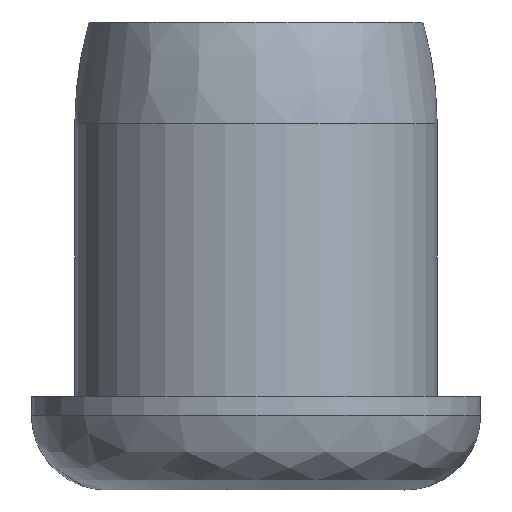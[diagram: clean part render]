
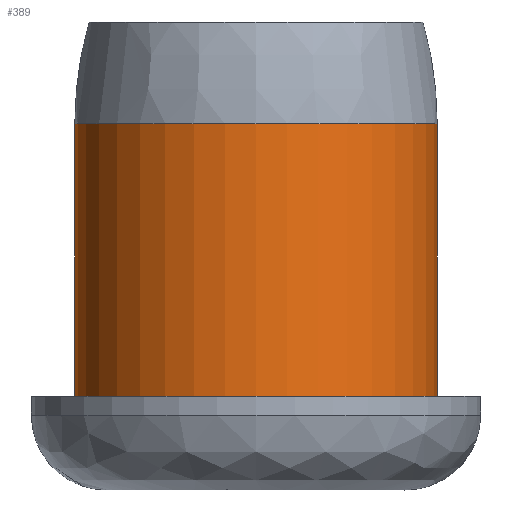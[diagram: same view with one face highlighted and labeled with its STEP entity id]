
A CAD part, front view. The second image highlights one B-rep face of the part: STEP entity #389.
In plain terms, the highlighted cylindrical face has radius 7.684 mm (diameter 15.367 mm), a partial arc.
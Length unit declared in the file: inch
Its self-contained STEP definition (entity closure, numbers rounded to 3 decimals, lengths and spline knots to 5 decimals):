
#6 = ORIENTED_EDGE ( 'NONE', *, *, #23, .T. ) ;
#23 = EDGE_CURVE ( 'NONE', #450, #93, #463, .T. ) ;
#34 = DIRECTION ( 'NONE',  ( 0., 0., 1. ) ) ;
#44 = LINE ( 'NONE', #108, #140 ) ;
#54 = CARTESIAN_POINT ( 'NONE',  ( -1.5, 0., -0.04464 ) ) ;
#56 = EDGE_CURVE ( 'NONE', #384, #450, #348, .T. ) ;
#73 = DIRECTION ( 'NONE',  ( 0., 0., 1. ) ) ;
#86 = DIRECTION ( 'NONE',  ( 1., 0., 0. ) ) ;
#93 = VERTEX_POINT ( 'NONE', #183 ) ;
#96 = EDGE_CURVE ( 'NONE', #384, #163, #44, .T. ) ;
#108 = CARTESIAN_POINT ( 'NONE',  ( -1.8025, 0., 0.75 ) ) ;
#118 = CARTESIAN_POINT ( 'NONE',  ( -1.1975, 0., 0.75 ) ) ;
#119 = CARTESIAN_POINT ( 'NONE',  ( -1.8025, 0., -0.04464 ) ) ;
#137 = ORIENTED_EDGE ( 'NONE', *, *, #219, .T. ) ;
#140 = VECTOR ( 'NONE', #396, 39.37008 ) ;
#144 = FACE_OUTER_BOUND ( 'NONE', #306, .T. ) ;
#145 = CARTESIAN_POINT ( 'NONE',  ( -1.8025, 0., -0.5 ) ) ;
#148 = AXIS2_PLACEMENT_3D ( 'NONE', #361, #73, #151 ) ;
#151 = DIRECTION ( 'NONE',  ( 1., 0., 0. ) ) ;
#158 = AXIS2_PLACEMENT_3D ( 'NONE', #266, #34, #309 ) ;
#163 = VERTEX_POINT ( 'NONE', #119 ) ;
#183 = CARTESIAN_POINT ( 'NONE',  ( -1.1975, 0., -0.04464 ) ) ;
#215 = AXIS2_PLACEMENT_3D ( 'NONE', #54, #332, #86 ) ;
#219 = EDGE_CURVE ( 'NONE', #93, #163, #305, .T. ) ;
#260 = ORIENTED_EDGE ( 'NONE', *, *, #56, .T. ) ;
#266 = CARTESIAN_POINT ( 'NONE',  ( -1.5, 0., 0.75 ) ) ;
#305 = CIRCLE ( 'NONE', #215, 0.3025 ) ;
#306 = EDGE_LOOP ( 'NONE', ( #432, #260, #6, #137 ) ) ;
#309 = DIRECTION ( 'NONE',  ( 1., 0., 0. ) ) ;
#332 = DIRECTION ( 'NONE',  ( 0., 0., -1. ) ) ;
#348 = CIRCLE ( 'NONE', #148, 0.3025 ) ;
#361 = CARTESIAN_POINT ( 'NONE',  ( -1.5, 0., -0.5 ) ) ;
#364 = VECTOR ( 'NONE', #401, 39.37008 ) ;
#384 = VERTEX_POINT ( 'NONE', #145 ) ;
#389 = ADVANCED_FACE ( 'NONE', ( #144 ), #449, .T. ) ;
#396 = DIRECTION ( 'NONE',  ( 0., 0., 1. ) ) ;
#401 = DIRECTION ( 'NONE',  ( 0., 0., 1. ) ) ;
#432 = ORIENTED_EDGE ( 'NONE', *, *, #96, .F. ) ;
#449 = CYLINDRICAL_SURFACE ( 'NONE', #158, 0.3025 ) ;
#450 = VERTEX_POINT ( 'NONE', #520 ) ;
#463 = LINE ( 'NONE', #118, #364 ) ;
#520 = CARTESIAN_POINT ( 'NONE',  ( -1.1975, 0., -0.5 ) ) ;
